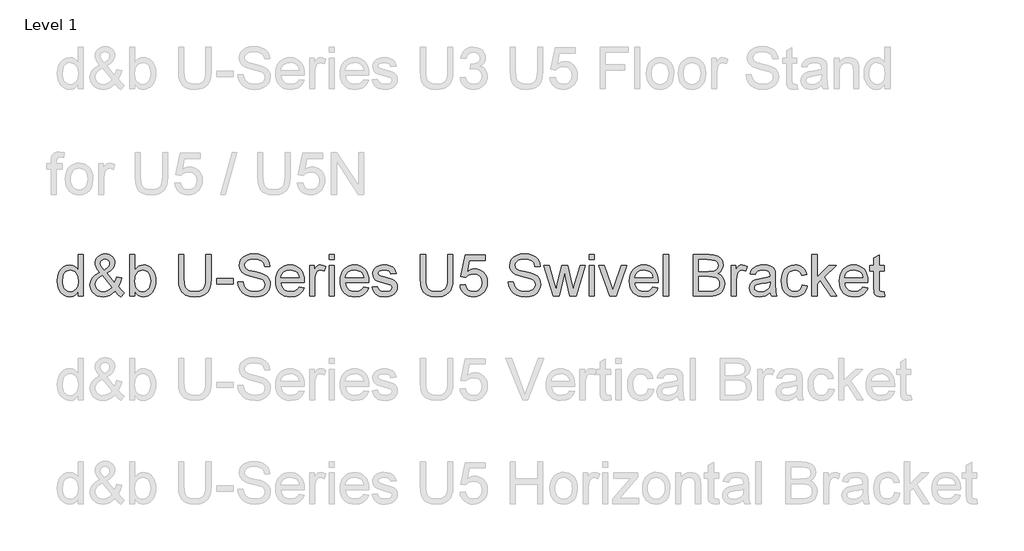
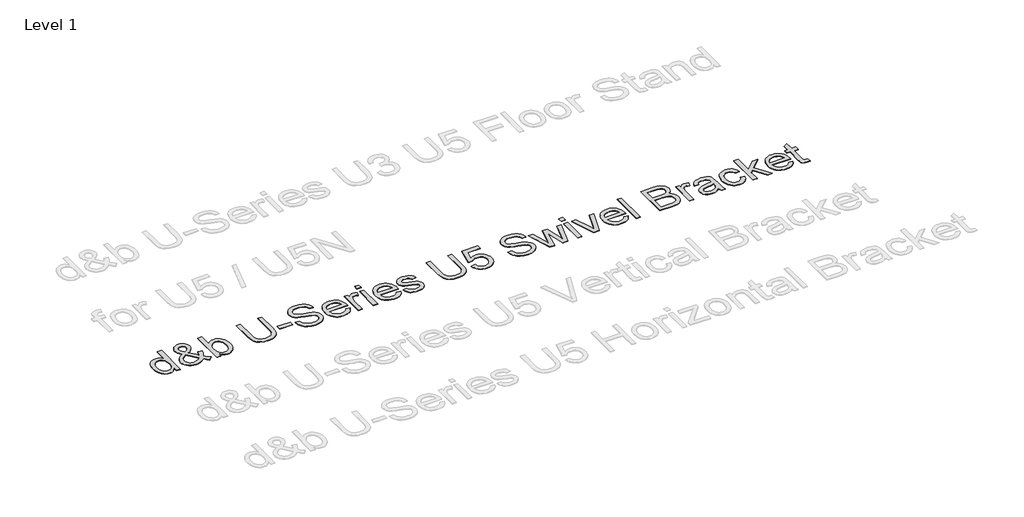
# One storey, part 9 of 29: 1 proxy.
"""IFC4 building model written with IfcOpenShell, lengths in millimetres."""

from ifc_helpers import new_model, si_unit, origin, origin_with_axes, place, context, project, spatial, polyline, outline, extrude, element, save

model = new_model("IFC4")

# Units and contexts
model_context = context("Model", 3, world=origin())
ifc_project = project(units=[si_unit("LENGTHUNIT", "METRE", prefix="MILLI")], contexts=[model_context])

# Site, building, storey
site = spatial("IfcSite", under=ifc_project)
building = spatial("IfcBuilding", under=site)
storey = spatial("IfcBuildingStorey", under=building, Name="Level 1", Elevation=0.0)

# Proxy
placement = place(None, origin())
element("IfcBuildingElementProxy", 1, Name="400mm Arial", ObjectType="400mm Arial", at=placement, inside=storey, context=model_context, shape_type="SweptSolid", body=[
    extrude(outline(polyline([(-20788.4119982, -3835.6363385), (-20788.4119982, -3788.2531375), (-20803.4399777, -3811.7301402), (-20821.6440051, -3828.4994278), (-20843.0240804, -3838.5610004), (-20867.5802036, -3841.9148579), (-20900.051921, -3837.0588156), (-20929.7767862, -3822.4906885), (-20954.9399147, -3799.2282837), (-20973.7264219, -3768.2894079), (-20985.4250694, -3730.9248599), (-20989.3246185, -3688.3854386), (-20985.7316377, -3646.3733147), (-20974.9526952, -3608.4324183), (-20957.0000539, -3576.7209903), (-20931.8859763, -3553.3972718), (-20901.5111863, -3539.049874), (-20867.7764073, -3534.2674081), (-20843.20189, -3537.6887106), (-20821.4723268, -3547.9526183), (-20803.0537016, -3563.6857049), (-20788.4119982, -3583.5145445), (-20788.4119982, -3433.8110979), (-20738.1838431, -3433.8110979), (-20738.1838431, -3835.6363385), (-20788.4119982, -3835.6363385)]), holes=[polyline([(-20939.0964634, -3688.1892348), (-20937.6801177, -3712.5460886), (-20933.4310807, -3733.6226612), (-20926.3493523, -3751.4189528), (-20916.4349325, -3765.9349632), (-20891.7377879, -3785.2487679), (-20877.8625053, -3790.0772191), (-20862.9694159, -3791.6867028), (-20848.0058157, -3790.1507955), (-20834.2133066, -3785.5430735), (-20810.1415614, -3767.1121855), (-20800.6348775, -3753.2031804), (-20793.844389, -3736.0506824), (-20788.4119982, -3692.0152076), (-20793.9424909, -3643.8717172), (-20800.8556067, -3625.336596), (-20810.5339688, -3610.4925575), (-20822.235682, -3599.1188724), (-20835.2188507, -3590.9948117), (-20849.4834751, -3586.1203753), (-20865.0295551, -3584.4955631), (-20880.2169501, -3586.0559959), (-20894.0922327, -3590.7372943), (-20906.6554028, -3598.5394583), (-20917.9064605, -3609.4624879), (-20927.1770868, -3623.7455063), (-20933.7989627, -3641.627637), (-20939.0964634, -3688.1892348)])]), origin_with_axes(), (0.0, 0.0, 1.0), 5.0),
    extrude(outline(polyline([(-20432.4003287, -3785.9967946), (-20457.9313392, -3810.4609473), (-20485.6696416, -3827.9353421), (-20515.664287, -3838.4199789), (-20547.9643262, -3841.9148579), (-20577.2722584, -3839.3274212), (-20603.3918801, -3831.5651111), (-20626.3231911, -3818.6279276), (-20646.0661915, -3800.5158707), (-20658.8991418, -3783.1457092), (-20668.0655348, -3764.7822662), (-20673.5653707, -3745.4255419), (-20675.3986493, -3725.0755362), (-20669.5002746, -3689.881492), (-20651.8051507, -3658.2681659), (-20622.3868538, -3630.2600833), (-20581.3189604, -3605.8817698), (-20603.2324646, -3577.5303307), (-20616.3903773, -3555.0650035), (-20622.975465, -3535.8860888), (-20625.1704942, -3517.3938872), (-20623.4414488, -3499.8397847), (-20618.2543127, -3483.4751673), (-20609.6090858, -3468.300035), (-20597.5057682, -3454.3143878), (-20582.784357, -3442.5973462), (-20566.2848495, -3434.2280308), (-20548.0072457, -3429.2064416), (-20527.9515456, -3427.5325785), (-20508.8032878, -3429.1328652), (-20491.4821772, -3433.9337252), (-20475.9882138, -3441.9351586), (-20462.3213977, -3453.1371654), (-20451.1623105, -3466.5832523), (-20443.1915339, -3481.3169262), (-20438.409068, -3497.3381871), (-20436.8149127, -3514.647035), (-20441.5360649, -3542.6305921), (-20455.6995218, -3568.5049591), (-20479.3052831, -3592.270136), (-20512.353349, -3613.9261227), (-20439.6598668, -3704.4741445), (-20427.2745063, -3678.5997775), (-20417.9793545, -3648.8503868), (-20367.7511994, -3659.7396939), (-20383.2022432, -3706.2645035), (-20403.2640747, -3742.4395664), (-20374.7164319, -3775.7451497), (-20342.6371219, -3803.2627229), (-20380.3082382, -3841.9148579), (-20405.9373505, -3818.4685121), (-20432.4003287, -3785.9967946)]), holes=[polyline([(-20537.7617322, -3582.2392202), (-20511.4949577, -3565.5741659), (-20496.4608468, -3551.091878), (-20489.3975125, -3537.0019976), (-20487.0430678, -3521.5141656), (-20490.1455392, -3503.9661944), (-20499.4529537, -3489.9744158), (-20513.4202068, -3480.8141542), (-20530.5021941, -3477.7607336), (-20547.9520634, -3480.7896287), (-20562.2381476, -3489.876314), (-20571.7662912, -3503.3285323), (-20574.9423391, -3519.4540264), (-20570.6258571, -3537.8481261), (-20557.578309, -3558.3023651), (-20537.7617322, -3582.2392202)]), polyline([(-20466.0492686, -3749.7972063), (-20555.7143735, -3637.8629779), (-20589.9641873, -3659.7151684), (-20610.8966728, -3679.9486782), (-20621.6020389, -3699.2747456), (-20625.1704942, -3718.4046094), (-20620.2899264, -3742.0962099), (-20605.648223, -3766.6707271), (-20594.8692805, -3777.6152165), (-20582.0547244, -3785.4327089), (-20567.2045545, -3790.1232043), (-20550.3187709, -3791.6867028), (-20527.5959264, -3788.7681723), (-20504.1618433, -3780.0125808), (-20482.7388484, -3766.6216762), (-20466.0492686, -3749.7972063)])]), origin_with_axes(), (0.0, 0.0, 1.0), 5.0),
    extrude(outline(polyline([(-20242.1808118, -3835.6363385), (-20292.4089668, -3835.6363385), (-20292.4089668, -3433.8110979), (-20242.1808118, -3433.8110979), (-20242.1808118, -3582.8278314), (-20225.6629102, -3561.5826462), (-20207.011293, -3546.4075139), (-20186.2259603, -3537.3024345), (-20163.306912, -3534.2674081), (-20137.432545, -3537.0019976), (-20112.9806551, -3545.2057661), (-20091.3491937, -3558.3636787), (-20073.9361126, -3575.9607008), (-20060.2876906, -3597.8251541), (-20049.9502065, -3623.7853602), (-20043.4386952, -3652.7621987), (-20041.2681915, -3683.676549), (-20043.5153373, -3719.3488398), (-20050.2567749, -3750.729174), (-20061.4925041, -3777.8175516), (-20077.2225251, -3800.6139726), (-20096.1040685, -3818.6831099), (-20116.7943651, -3831.5896366), (-20139.2934148, -3839.3335526), (-20163.6012176, -3841.9148579), (-20187.274424, -3838.5855258), (-20208.2620918, -3828.5975297), (-20226.5642211, -3811.9508694), (-20242.1808118, -3788.645545), (-20242.1808118, -3835.6363385)]), holes=[polyline([(-20242.1808118, -3686.0309938), (-20238.7472465, -3727.9204903), (-20228.4465506, -3756.2719294), (-20216.2757879, -3771.7658928), (-20202.1307252, -3782.8330095), (-20186.0113625, -3789.4732795), (-20167.9176997, -3791.6867028), (-20152.8958515, -3790.0557593), (-20138.9285984, -3785.1629288), (-20126.0159404, -3777.0082112), (-20114.1578774, -3765.5916066), (-20104.2434577, -3750.9437719), (-20097.1617293, -3733.0953637), (-20092.9126922, -3712.0463822), (-20091.4963465, -3687.7968274), (-20096.9287373, -3641.8361035), (-20103.7192258, -3624.0428776), (-20113.2259097, -3609.7077425), (-20124.6578427, -3598.677414), (-20137.2240785, -3590.798608), (-20150.9246172, -3586.0713243), (-20165.7594586, -3584.4955631), (-20180.7813068, -3586.1265066), (-20194.7485599, -3591.0193372), (-20207.6612179, -3599.1740547), (-20219.5192809, -3610.5906593), (-20229.4337006, -3625.0913413), (-20236.515429, -3642.498291), (-20240.7644661, -3662.8115085), (-20242.1808118, -3686.0309938)])]), origin_with_axes(), (0.0, 0.0, 1.0), 5.0),
    extrude(outline(polyline([(-19557.8221989, -3433.8110979), (-19507.5940438, -3433.8110979), (-19507.5940438, -3665.6258058), (-19511.0030836, -3719.9129256), (-19521.2302031, -3761.7165829), (-19529.4155775, -3778.6698116), (-19540.3355414, -3793.9675712), (-19570.3792376, -3819.5966835), (-19589.5213641, -3829.3608848), (-19611.4348683, -3836.3353143), (-19663.5760097, -3841.9148579), (-19714.576717, -3837.0588156), (-19755.3503048, -3822.4906885), (-19771.9049946, -3811.6902863), (-19785.9090359, -3798.7132489), (-19797.3624287, -3783.5595764), (-19806.2651729, -3766.2292688), (-19817.706303, -3722.6597778), (-19821.520013, -3665.6258058), (-19821.520013, -3433.8110979), (-19771.2918579, -3433.8110979), (-19771.2918579, -3663.8599722), (-19768.8147858, -3708.999093), (-19761.3835695, -3740.4284782), (-19747.9190885, -3762.1948295), (-19727.3422222, -3778.3448491), (-19700.5113621, -3788.3512394), (-19668.2848993, -3791.6867028), (-19640.6017791, -3790.0373652), (-19617.1983529, -3785.0893524), (-19598.0746205, -3776.8426643), (-19583.230582, -3765.297301), (-19572.1144144, -3749.0614423), (-19564.1742947, -3726.7432679), (-19559.4102228, -3698.3427779), (-19557.8221989, -3663.8599722), (-19557.8221989, -3433.8110979)])), origin_with_axes(), (0.0, 0.0, 1.0), 5.0),
    extrude(outline(polyline([(-19451.0873693, -3716.3444702), (-19451.0873693, -3666.1163151), (-19294.1243847, -3666.1163151), (-19294.1243847, -3716.3444702), (-19451.0873693, -3716.3444702)])), origin_with_axes(), (0.0, 0.0, 1.0), 5.0),
    extrude(outline(polyline([(-19250.174749, -3697.5089121), (-19199.946594, -3697.5089121), (-19194.1831094, -3725.3821046), (-19183.7597862, -3747.7861181), (-19167.499402, -3765.5670812), (-19144.2247344, -3779.5711224), (-19115.7751935, -3788.6578077), (-19083.9901891, -3791.6867028), (-19056.006632, -3789.3935717), (-19031.5056911, -3782.5141784), (-19011.6523261, -3771.6248713), (-18997.6114966, -3757.301999), (-18989.2605753, -3740.8576738), (-18986.4769349, -3723.6040082), (-18988.5615995, -3706.7918011), (-18994.8155934, -3692.2604623), (-19007.519785, -3679.862839), (-19028.9550426, -3669.4517786), (-19102.0899832, -3650.2728639), (-19150.0985836, -3637.580935), (-19180.8167302, -3625.5021429), (-19205.8204431, -3608.6040966), (-19223.5400926, -3588.1253322), (-19234.0983058, -3564.5073081), (-19237.6177103, -3538.1914827), (-19233.26444, -3508.7731858), (-19220.2046292, -3481.3414517), (-19198.7816343, -3458.0913096), (-19169.338812, -3441.2177887), (-19133.997615, -3430.9538811), (-19094.8794961, -3427.5325785), (-19052.4994903, -3431.1132966), (-19015.4169852, -3441.8554509), (-18984.956356, -3459.5383121), (-18962.4419779, -3483.9411511), (-18948.1926819, -3513.543389), (-18942.5272992, -3546.8244468), (-18992.7554543, -3546.8244468), (-19001.9770296, -3516.854327), (-19010.3402136, -3504.996264), (-19021.2049952, -3495.2228656), (-19051.2486915, -3482.1262666), (-19092.9174588, -3477.7607336), (-19135.5672448, -3482.0772157), (-19151.8705486, -3487.4728183), (-19164.8261262, -3495.0266619), (-19181.7486979, -3514.0829493), (-19187.3895552, -3536.7199547), (-19183.3919042, -3556.0214967), (-19171.3989511, -3571.5461169), (-19143.047512, -3585.4275309), (-19089.3857917, -3599.6032504), (-19034.0072887, -3613.0677314), (-19000.5055016, -3624.8154298), (-18971.8720197, -3643.0378513), (-18951.8960273, -3665.5277039), (-18940.1605917, -3692.0397331), (-18936.2487798, -3722.328684), (-18940.7492029, -3753.2920853), (-18954.2504721, -3782.4160765), (-18976.2007645, -3807.4811031), (-19006.048257, -3826.2676104), (-19041.941277, -3838.003046), (-19082.0281518, -3841.9148579), (-19131.2385, -3837.6964777), (-19171.7423077, -3825.041337), (-19204.0055586, -3803.9003851), (-19228.4942368, -3774.2245708), (-19244.2150607, -3738.0740334), (-19250.174749, -3697.5089121)])), origin_with_axes(), (0.0, 0.0, 1.0), 5.0),
    extrude(outline(polyline([(-18660.5825381, -3747.7370671), (-18611.3354017, -3754.0155865), (-18618.8861796, -3773.7401928), (-18629.0795766, -3791.1226171), (-18641.9155925, -3806.1628593), (-18657.3942275, -3818.8609195), (-18675.3560659, -3828.9470176), (-18695.6416922, -3836.1513733), (-18743.1843087, -3841.9148579), (-18774.3500451, -3839.4285887), (-18802.1190044, -3831.9697813), (-18826.4911866, -3819.5384355), (-18847.4665916, -3802.1345515), (-18864.3339811, -3780.2425071), (-18876.3821165, -3754.3466803), (-18883.6109977, -3724.4470712), (-18886.0206247, -3690.5436796), (-18883.5864722, -3655.4906568), (-18876.2840146, -3624.5947006), (-18864.1132519, -3597.8558109), (-18847.0741842, -3575.2739878), (-18826.1539614, -3557.3336092), (-18802.3397336, -3544.519053), (-18775.6315007, -3536.8303193), (-18746.0292628, -3534.2674081), (-18717.3804525, -3536.8241879), (-18691.472363, -3544.4945275), (-18668.3049943, -3557.2784269), (-18647.8783465, -3575.1758859), (-18631.2040951, -3597.7086581), (-18619.2939155, -3624.3984969), (-18612.1478077, -3655.2454022), (-18609.7657718, -3690.249374), (-18610.0600774, -3703.7874314), (-18835.7924697, -3703.7874314), (-18832.8831362, -3723.8308688), (-18827.0981918, -3741.3849713), (-18818.4376365, -3756.449739), (-18806.9014703, -3769.0251719), (-18793.1273553, -3778.9395917), (-18777.7529536, -3786.0213201), (-18742.2032901, -3791.6867028), (-18715.4705318, -3789.0624779), (-18692.9561537, -3781.1898032), (-18674.6601558, -3767.5781694), (-18660.5825381, -3747.7370671)]), holes=[polyline([(-18835.7924697, -3653.5592764), (-18659.9939269, -3653.5592764), (-18666.7874811, -3627.0227218), (-18680.1048093, -3608.0400108), (-18693.8022823, -3597.739315), (-18709.3882161, -3590.3816751), (-18726.8626109, -3585.9670911), (-18746.2254666, -3584.4955631), (-18780.0828729, -3589.1921899), (-18808.0786927, -3603.2820704), (-18827.5396502, -3625.2446255), (-18835.7924697, -3653.5592764)])]), origin_with_axes(), (0.0, 0.0, 1.0), 5.0),
    extrude(outline(polyline([(-18559.5376168, -3835.6363385), (-18559.5376168, -3540.5459274), (-18515.5879811, -3540.5459274), (-18515.5879811, -3584.2012575), (-18499.3521223, -3558.8909763), (-18484.3915879, -3543.9794927), (-18469.3820025, -3536.6954292), (-18452.998991, -3534.2674081), (-18427.9830153, -3538.1424317), (-18402.5746321, -3549.7675028), (-18419.3500511, -3594.796259), (-18437.0083869, -3587.0707371), (-18454.6667227, -3584.4955631), (-18469.6640453, -3586.9726352), (-18483.0672127, -3594.4038515), (-18493.8952061, -3606.2251263), (-18501.1670069, -3621.8723738), (-18507.273848, -3649.9295073), (-18509.3094617, -3680.5372893), (-18509.3094617, -3835.6363385), (-18559.5376168, -3835.6363385)])), origin_with_axes(), (0.0, 0.0, 1.0), 5.0),
    extrude(outline(polyline([(-18371.1820352, -3484.039253), (-18371.1820352, -3433.8110979), (-18320.9538802, -3433.8110979), (-18320.9538802, -3484.039253), (-18371.1820352, -3484.039253)])), origin_with_axes(), (0.0, 0.0, 1.0), 5.0),
    extrude(outline(polyline([(-18371.1820352, -3835.6363385), (-18371.1820352, -3540.5459274), (-18320.9538802, -3540.5459274), (-18320.9538802, -3835.6363385), (-18371.1820352, -3835.6363385)])), origin_with_axes(), (0.0, 0.0, 1.0), 5.0),
    extrude(outline(polyline([(-18039.009119, -3747.7370671), (-17989.7619826, -3754.0155865), (-17997.3127606, -3773.7401928), (-18007.5061575, -3791.1226171), (-18020.3421735, -3806.1628593), (-18035.8208084, -3818.8609195), (-18053.7826468, -3828.9470176), (-18074.0682732, -3836.1513733), (-18121.6108897, -3841.9148579), (-18152.7766261, -3839.4285887), (-18180.5455853, -3831.9697813), (-18204.9177675, -3819.5384355), (-18225.8931726, -3802.1345515), (-18242.7605621, -3780.2425071), (-18254.8086974, -3754.3466803), (-18262.0375786, -3724.4470712), (-18264.4472057, -3690.5436796), (-18262.0130532, -3655.4906568), (-18254.7105956, -3624.5947006), (-18242.5398329, -3597.8558109), (-18225.5007651, -3575.2739878), (-18204.5805423, -3557.3336092), (-18180.7663145, -3544.519053), (-18154.0580817, -3536.8303193), (-18124.4558438, -3534.2674081), (-18095.8070334, -3536.8241879), (-18069.8989439, -3544.4945275), (-18046.7315753, -3557.2784269), (-18026.3049275, -3575.1758859), (-18009.630676, -3597.7086581), (-17997.7204965, -3624.3984969), (-17990.5743887, -3655.2454022), (-17988.1923528, -3690.249374), (-17988.4866584, -3703.7874314), (-18214.2190506, -3703.7874314), (-18211.3097172, -3723.8308688), (-18205.5247728, -3741.3849713), (-18196.8642175, -3756.449739), (-18185.3280513, -3769.0251719), (-18171.5539362, -3778.9395917), (-18156.1795345, -3786.0213201), (-18120.629871, -3791.6867028), (-18093.8971127, -3789.0624779), (-18071.3827346, -3781.1898032), (-18053.0867367, -3767.5781694), (-18039.009119, -3747.7370671)]), holes=[polyline([(-18214.2190506, -3653.5592764), (-18038.4205079, -3653.5592764), (-18045.214062, -3627.0227218), (-18058.5313903, -3608.0400108), (-18072.2288632, -3597.739315), (-18087.8147971, -3590.3816751), (-18105.2891918, -3585.9670911), (-18124.6520475, -3584.4955631), (-18158.5094538, -3589.1921899), (-18186.5052736, -3603.2820704), (-18205.9662312, -3625.2446255), (-18214.2190506, -3653.5592764)])]), origin_with_axes(), (0.0, 0.0, 1.0), 5.0),
    extrude(outline(polyline([(-17956.7997559, -3747.7370671), (-17906.5716008, -3741.4585477), (-17898.6498752, -3762.9428563), (-17883.3214587, -3778.7372566), (-17860.4882495, -3788.4493413), (-17830.0521458, -3791.6867028), (-17799.983924, -3788.7191214), (-17778.8429721, -3779.8163771), (-17766.3349842, -3766.9159818), (-17762.1656549, -3751.9554473), (-17766.3595097, -3739.1531539), (-17778.9410739, -3729.3920183), (-17830.640757, -3715.069146), (-17906.2772952, -3690.4946287), (-17925.4194217, -3678.1460564), (-17939.2885729, -3661.7998331), (-17947.7130706, -3642.498291), (-17950.5212365, -3621.2837627), (-17948.2648936, -3601.8228051), (-17941.4958649, -3583.857901), (-17930.827287, -3568.1002889), (-17916.8722966, -3555.2612073), (-17884.9401395, -3540.3987746), (-17864.0567049, -3535.8002497), (-17841.7262678, -3534.2674081), (-17809.0338211, -3536.7322174), (-17780.6088056, -3544.1266455), (-17757.751071, -3555.7271911), (-17741.7604669, -3570.8103529), (-17731.1654655, -3590.4920397), (-17724.4945386, -3615.8881601), (-17774.7226937, -3622.1666794), (-17781.0625268, -3606.3600164), (-17793.6073028, -3594.4529025), (-17812.4796492, -3586.984898), (-17837.8021932, -3584.4955631), (-17866.6441416, -3586.8745334), (-17885.8721072, -3594.0114441), (-17896.6878378, -3604.3121399), (-17900.2930814, -3616.1824657), (-17894.3088676, -3630.7996436), (-17875.5714113, -3641.8851544), (-17832.3084887, -3652.5782577), (-17758.5849369, -3676.2208073), (-17739.1117166, -3687.5270473), (-17724.3473858, -3703.0026165), (-17715.0399714, -3722.696566), (-17711.9374999, -3746.6579466), (-17715.5795316, -3771.4286676), (-17726.5056269, -3794.7278606), (-17744.2988527, -3814.7283785), (-17768.5422762, -3829.6030738), (-17797.825683, -3838.8369119), (-17830.7388588, -3841.9148579), (-17857.7720541, -3840.4310672), (-17881.3839468, -3835.979695), (-17901.574537, -3828.5607415), (-17918.3438246, -3818.1742065), (-17932.0412976, -3804.869141), (-17943.0164438, -3788.6945959), (-17951.2692632, -3769.6505713), (-17956.7997559, -3747.7370671)])), origin_with_axes(), (0.0, 0.0, 1.0), 5.0),
    extrude(outline(polyline([(-17228.4915073, -3433.8110979), (-17178.2633522, -3433.8110979), (-17178.2633522, -3665.6258058), (-17181.672392, -3719.9129256), (-17191.8995115, -3761.7165829), (-17200.0848859, -3778.6698116), (-17211.0048498, -3793.9675712), (-17241.048546, -3819.5966835), (-17260.1906725, -3829.3608848), (-17282.1041767, -3836.3353143), (-17334.2453182, -3841.9148579), (-17385.2460254, -3837.0588156), (-17426.0196132, -3822.4906885), (-17442.574303, -3811.6902863), (-17456.5783443, -3798.7132489), (-17468.0317371, -3783.5595764), (-17476.9344814, -3766.2292688), (-17488.3756114, -3722.6597778), (-17492.1893214, -3665.6258058), (-17492.1893214, -3433.8110979), (-17441.9611663, -3433.8110979), (-17441.9611663, -3663.8599722), (-17439.4840942, -3708.999093), (-17432.0528779, -3740.4284782), (-17418.5883969, -3762.1948295), (-17398.0115307, -3778.3448491), (-17371.1806705, -3788.3512394), (-17338.9542077, -3791.6867028), (-17311.2710876, -3790.0373652), (-17287.8676613, -3785.0893524), (-17268.7439289, -3776.8426643), (-17253.8998904, -3765.297301), (-17242.7837228, -3749.0614423), (-17234.8436031, -3726.7432679), (-17230.0795312, -3698.3427779), (-17228.4915073, -3663.8599722), (-17228.4915073, -3433.8110979)])), origin_with_axes(), (0.0, 0.0, 1.0), 5.0),
    extrude(outline(polyline([(-17109.199639, -3728.901509), (-17058.9714839, -3722.6229896), (-17049.7499086, -3752.7770505), (-17033.6612026, -3774.3717236), (-17010.7789425, -3787.357958), (-16981.1767046, -3791.6867028), (-16962.0468409, -3790.1814523), (-16945.1733201, -3785.6657008), (-16930.5561421, -3778.1394483), (-16918.1953071, -3767.6026949), (-16908.3667264, -3754.5766066), (-16901.3463117, -3739.5823496), (-16895.7299799, -3703.6893296), (-16900.9906924, -3669.8932369), (-16907.5665831, -3655.9750348), (-16916.77283, -3644.0433954), (-16928.6400901, -3634.4723322), (-16943.19902, -3627.6358584), (-16980.3918897, -3622.1666794), (-17004.7579405, -3624.3494459), (-17024.4886782, -3630.8977455), (-17040.2462903, -3640.9286612), (-17052.6929645, -3653.5592764), (-17102.9211196, -3647.280757), (-17058.9714839, -3440.0896173), (-16864.337383, -3440.0896173), (-16864.337383, -3490.3177724), (-17018.3573116, -3490.3177724), (-17039.939722, -3600.9766765), (-17022.2139412, -3588.272485), (-17004.0589647, -3579.1980624), (-16985.4747926, -3573.7534089), (-16966.4614248, -3571.9385244), (-16941.9972722, -3574.1887359), (-16919.5196823, -3580.9393705), (-16899.0286551, -3592.1904282), (-16880.5241908, -3607.941909), (-16865.2019057, -3627.2311882), (-16854.2574163, -3649.0956415), (-16847.6907227, -3673.5352687), (-16845.5018248, -3700.5500699), (-16847.4699935, -3726.5715897), (-16853.3744995, -3750.778225), (-16863.2153429, -3773.1699757), (-16876.9925236, -3793.746842), (-16897.8636955, -3814.8203489), (-16922.2174836, -3829.8728539), (-16950.0538879, -3838.9043569), (-16981.3729084, -3841.9148579), (-17007.2932606, -3839.9804117), (-17030.7058839, -3834.1770733), (-17051.6107783, -3824.5048425), (-17070.0079438, -3810.9637194), (-17085.3149004, -3794.2281543), (-17096.9491685, -3774.9725975), (-17104.910748, -3753.1970491), (-17109.199639, -3728.901509)])), origin_with_axes(), (0.0, 0.0, 1.0), 5.0),
    extrude(outline(polyline([(-16644.5892045, -3697.5089121), (-16594.3610495, -3697.5089121), (-16588.5975649, -3725.3821046), (-16578.1742417, -3747.7861181), (-16561.9138575, -3765.5670812), (-16538.6391899, -3779.5711224), (-16510.189649, -3788.6578077), (-16478.4046446, -3791.6867028), (-16450.4210875, -3789.3935717), (-16425.9201466, -3782.5141784), (-16406.0667816, -3771.6248713), (-16392.0259521, -3757.301999), (-16383.6750308, -3740.8576738), (-16380.8913904, -3723.6040082), (-16382.976055, -3706.7918011), (-16389.2300489, -3692.2604623), (-16401.9342405, -3679.862839), (-16423.3694981, -3669.4517786), (-16496.5044387, -3650.2728639), (-16544.5130391, -3637.580935), (-16575.2311857, -3625.5021429), (-16600.2348986, -3608.6040966), (-16617.9545481, -3588.1253322), (-16628.5127613, -3564.5073081), (-16632.0321658, -3538.1914827), (-16627.6788955, -3508.7731858), (-16614.6190847, -3481.3414517), (-16593.1960898, -3458.0913096), (-16563.7532675, -3441.2177887), (-16528.4120705, -3430.9538811), (-16489.2939516, -3427.5325785), (-16446.9139458, -3431.1132966), (-16409.8314407, -3441.8554509), (-16379.3708115, -3459.5383121), (-16356.8564334, -3483.9411511), (-16342.6071374, -3513.543389), (-16336.9417547, -3546.8244468), (-16387.1699098, -3546.8244468), (-16396.3914851, -3516.854327), (-16404.7546691, -3504.996264), (-16415.6194507, -3495.2228656), (-16445.663147, -3482.1262666), (-16487.3319143, -3477.7607336), (-16529.9817003, -3482.0772157), (-16546.2850041, -3487.4728183), (-16559.2405816, -3495.0266619), (-16576.1631534, -3514.0829493), (-16581.8040107, -3536.7199547), (-16577.8063597, -3556.0214967), (-16565.8134066, -3571.5461169), (-16537.4619675, -3585.4275309), (-16483.8002472, -3599.6032504), (-16428.4217442, -3613.0677314), (-16394.9199571, -3624.8154298), (-16366.2864752, -3643.0378513), (-16346.3104828, -3665.5277039), (-16334.5750472, -3692.0397331), (-16330.6632353, -3722.328684), (-16335.1636584, -3753.2920853), (-16348.6649276, -3782.4160765), (-16370.61522, -3807.4811031), (-16400.4627125, -3826.2676104), (-16436.3557325, -3838.003046), (-16476.4426073, -3841.9148579), (-16525.6529555, -3837.6964777), (-16566.1567632, -3825.041337), (-16598.4200141, -3803.9003851), (-16622.9086923, -3774.2245708), (-16638.6295162, -3738.0740334), (-16644.5892045, -3697.5089121)])), origin_with_axes(), (0.0, 0.0, 1.0), 5.0),
    extrude(outline(polyline([(-16212.2542838, -3835.6363385), (-16302.4098981, -3540.5459274), (-16250.3178076, -3540.5459274), (-16199.3048376, -3712.7147012), (-16184.0990484, -3774.2245708), (-16171.6401115, -3714.9710441), (-16131.1240411, -3540.5459274), (-16071.478107, -3540.5459274), (-16030.9620366, -3714.4805348), (-16019.8765258, -3768.1422551), (-16003.9840236, -3711.5374788), (-15952.9710536, -3540.5459274), (-15900.5846575, -3540.5459274), (-15991.0345774, -3835.6363385), (-16051.6615302, -3835.6363385), (-16090.3136651, -3662.584648), (-16101.4972778, -3608.628622), (-16151.2349235, -3835.6363385), (-16212.2542838, -3835.6363385)])), origin_with_axes(), (0.0, 0.0, 1.0), 5.0),
    extrude(outline(polyline([(-15866.0528009, -3835.6363385), (-15866.0528009, -3540.5459274), (-15815.8246458, -3540.5459274), (-15815.8246458, -3835.6363385), (-15866.0528009, -3835.6363385)])), origin_with_axes(), (0.0, 0.0, 1.0), 5.0),
    extrude(outline(polyline([(-15866.0528009, -3484.039253), (-15866.0528009, -3433.8110979), (-15815.8246458, -3433.8110979), (-15815.8246458, -3484.039253), (-15866.0528009, -3484.039253)])), origin_with_axes(), (0.0, 0.0, 1.0), 5.0),
    extrude(outline(polyline([(-15667.8870328, -3835.6363385), (-15771.8750101, -3540.5459274), (-15718.8019009, -3540.5459274), (-15655.8205034, -3717.3254889), (-15636.8868433, -3776.7752193), (-15618.3455908, -3720.6609523), (-15555.0698876, -3540.5459274), (-15501.8986766, -3540.5459274), (-15604.4151259, -3835.6363385), (-15667.8870328, -3835.6363385)])), origin_with_axes(), (0.0, 0.0, 1.0), 5.0),
    extrude(outline(polyline([(-15251.3465124, -3747.7370671), (-15202.099376, -3754.0155865), (-15209.6501539, -3773.7401928), (-15219.8435509, -3791.1226171), (-15232.6795668, -3806.1628593), (-15248.1582018, -3818.8609195), (-15266.1200402, -3828.9470176), (-15286.4056665, -3836.1513733), (-15333.948283, -3841.9148579), (-15365.1140194, -3839.4285887), (-15392.8829787, -3831.9697813), (-15417.2551609, -3819.5384355), (-15438.2305659, -3802.1345515), (-15455.0979554, -3780.2425071), (-15467.1460908, -3754.3466803), (-15474.374972, -3724.4470712), (-15476.784599, -3690.5436796), (-15474.3504465, -3655.4906568), (-15467.0479889, -3624.5947006), (-15454.8772262, -3597.8558109), (-15437.8381585, -3575.2739878), (-15416.9179357, -3557.3336092), (-15393.1037079, -3544.519053), (-15366.395475, -3536.8303193), (-15336.7932371, -3534.2674081), (-15308.1444268, -3536.8241879), (-15282.2363373, -3544.4945275), (-15259.0689686, -3557.2784269), (-15238.6423208, -3575.1758859), (-15221.9680694, -3597.7086581), (-15210.0578898, -3624.3984969), (-15202.911782, -3655.2454022), (-15200.5297461, -3690.249374), (-15200.8240517, -3703.7874314), (-15426.556444, -3703.7874314), (-15423.6471105, -3723.8308688), (-15417.8621661, -3741.3849713), (-15409.2016108, -3756.449739), (-15397.6654446, -3769.0251719), (-15383.8913296, -3778.9395917), (-15368.5169279, -3786.0213201), (-15332.9672644, -3791.6867028), (-15306.2345061, -3789.0624779), (-15283.720128, -3781.1898032), (-15265.4241301, -3767.5781694), (-15251.3465124, -3747.7370671)]), holes=[polyline([(-15426.556444, -3653.5592764), (-15250.7579012, -3653.5592764), (-15257.5514554, -3627.0227218), (-15270.8687836, -3608.0400108), (-15284.5662566, -3597.739315), (-15300.1521904, -3590.3816751), (-15317.6265852, -3585.9670911), (-15336.9894409, -3584.4955631), (-15370.8468472, -3589.1921899), (-15398.842667, -3603.2820704), (-15418.3036245, -3625.2446255), (-15426.556444, -3653.5592764)])]), origin_with_axes(), (0.0, 0.0, 1.0), 5.0),
    extrude(outline(polyline([(-15150.3015911, -3835.6363385), (-15150.3015911, -3433.8110979), (-15100.073436, -3433.8110979), (-15100.073436, -3835.6363385), (-15150.3015911, -3835.6363385)])), origin_with_axes(), (0.0, 0.0, 1.0), 5.0),
    extrude(outline(polyline([(-14861.4896994, -3835.6363385), (-14861.4896994, -3433.8110979), (-14708.1564838, -3433.8110979), (-14665.9849444, -3436.7664166), (-14633.0595058, -3445.6323727), (-14607.822801, -3460.6296954), (-14588.7174627, -3481.9791138), (-14576.6877214, -3507.0931914), (-14572.6778077, -3533.3844913), (-14576.0500593, -3557.5788638), (-14586.1668142, -3580.3262339), (-14603.1016487, -3600.2286498), (-14626.9281392, -3615.8881601), (-14598.4663356, -3630.7505927), (-14577.4357482, -3653.3630726), (-14564.4495137, -3682.2295465), (-14560.1207689, -3715.8539609), (-14563.0760876, -3743.8743062), (-14571.9420437, -3769.8590378), (-14585.1735328, -3791.9564829), (-14601.2254505, -3808.314969), (-14620.8826118, -3820.1607692), (-14644.9298315, -3828.720157), (-14674.1519247, -3833.9072931), (-14709.3337062, -3835.6363385), (-14861.4896994, -3835.6363385)]), holes=[polyline([(-14811.2615443, -3597.0526019), (-14719.5363002, -3597.0526019), (-14665.9726817, -3592.7361198), (-14647.2229626, -3585.2926408), (-14633.7462189, -3574.1458163), (-14625.6160268, -3559.4673247), (-14622.9059628, -3541.4288442), (-14625.4320858, -3523.9176613), (-14633.0104549, -3508.6628212), (-14645.2977135, -3496.7557073), (-14661.9505052, -3489.2877028), (-14687.5060411, -3485.3513654), (-14726.5015326, -3484.039253), (-14811.2615443, -3484.039253), (-14811.2615443, -3597.0526019)]), polyline([(-14811.2615443, -3785.4081834), (-14708.2545856, -3785.4081834), (-14670.9758768, -3783.4461461), (-14639.4361271, -3772.5077881), (-14627.860107, -3763.0777463), (-14618.5404298, -3750.1896138), (-14612.3968004, -3734.4197389), (-14610.348924, -3716.3444702), (-14612.7524197, -3695.350671), (-14619.9629068, -3677.2999278), (-14632.5567338, -3663.1855219), (-14651.1102491, -3654.0007348), (-14677.3892863, -3648.9607514), (-14713.1596789, -3647.280757), (-14811.2615443, -3647.280757), (-14811.2615443, -3785.4081834)])]), origin_with_axes(), (0.0, 0.0, 1.0), 5.0),
    extrude(outline(polyline([(-14497.3355751, -3835.6363385), (-14497.3355751, -3540.5459274), (-14453.3859394, -3540.5459274), (-14453.3859394, -3584.2012575), (-14437.1500807, -3558.8909763), (-14422.1895462, -3543.9794927), (-14407.1799608, -3536.6954292), (-14390.7969493, -3534.2674081), (-14365.7809736, -3538.1424317), (-14340.3725905, -3549.7675028), (-14357.1480095, -3594.796259), (-14374.8063452, -3587.0707371), (-14392.464681, -3584.4955631), (-14407.4620037, -3586.9726352), (-14420.865171, -3594.4038515), (-14431.6931644, -3606.2251263), (-14438.9649652, -3621.8723738), (-14445.0718063, -3649.9295073), (-14447.10742, -3680.5372893), (-14447.10742, -3835.6363385), (-14497.3355751, -3835.6363385)])), origin_with_axes(), (0.0, 0.0, 1.0), 5.0),
    extrude(outline(polyline([(-14120.624412, -3797.9652222), (-14144.6225808, -3818.5420885), (-14169.3319882, -3832.0065695), (-14195.3167198, -3839.4377858), (-14223.1408613, -3841.9148579), (-14245.505021, -3840.4249358), (-14265.116197, -3835.9551696), (-14281.9743894, -3828.5055592), (-14296.0795983, -3818.0761046), (-14307.2172257, -3805.3289935), (-14315.1726738, -3790.9264134), (-14319.9459427, -3774.8683643), (-14321.5370323, -3757.1548462), (-14319.1335366, -3736.3327253), (-14311.9230495, -3717.4235907), (-14300.8007505, -3701.2367829), (-14286.6618192, -3688.5816423), (-14270.0458157, -3679.0167104), (-14251.4923004, -3672.1005289), (-14208.0331741, -3664.5466853), (-14156.6768475, -3656.6004342), (-14120.9187176, -3647.280757), (-14120.624412, -3636.0971443), (-14124.0825028, -3613.6808681), (-14134.456775, -3599.0146392), (-14157.6578662, -3588.1253322), (-14189.9824308, -3584.4955631), (-14219.9034998, -3586.9113216), (-14240.7991971, -3594.1585969), (-14255.0484931, -3607.5617642), (-14265.0303579, -3628.4451988), (-14315.2585129, -3622.1666794), (-14306.5397096, -3594.6981571), (-14293.5289498, -3573.1157468), (-14275.0122227, -3556.6101079), (-14249.7755178, -3544.3719002), (-14218.9102184, -3536.7935311), (-14183.5077077, -3534.2674081), (-14149.5521996, -3536.4992255), (-14122.6355003, -3543.1946778), (-14102.3406769, -3553.2623817), (-14088.2507964, -3565.610954), (-14078.9065938, -3580.8780568), (-14072.8488036, -3599.7013523), (-14070.3962569, -3643.650988), (-14070.3962569, -3706.1418762), (-14067.8456084, -3793.4034855), (-14057.8392182, -3835.6363385), (-14108.0673733, -3835.6363385), (-14116.1117262, -3818.1742065), (-14120.624412, -3797.9652222)]), holes=[polyline([(-14120.624412, -3697.5089121), (-14154.3714537, -3705.8720961), (-14201.6565528, -3712.9109049), (-14244.8704245, -3721.0533597), (-14256.1153508, -3726.6206406), (-14264.4417467, -3734.2971116), (-14269.5920946, -3743.4941615), (-14271.3088772, -3753.6231791), (-14267.5687436, -3768.5591881), (-14256.3483428, -3780.7973958), (-14237.8929293, -3788.9643761), (-14212.447758, -3791.6867028), (-14185.469745, -3788.6823332), (-14161.6309917, -3779.6692243), (-14142.3049243, -3766.3886843), (-14128.8649687, -3750.5820212), (-14122.9052804, -3734.2971116), (-14120.9187176, -3711.7336825), (-14120.624412, -3697.5089121)])]), origin_with_axes(), (0.0, 0.0, 1.0), 5.0),
    extrude(outline(polyline([(-13812.9769622, -3728.901509), (-13762.7488071, -3735.1800284), (-13768.2118547, -3758.8808259), (-13776.7528484, -3779.8531653), (-13788.3717881, -3798.0970466), (-13803.0686738, -3813.6124697), (-13820.2242375, -3825.9947646), (-13839.2192112, -3834.8392609), (-13860.0535948, -3840.1459586), (-13882.7273885, -3841.9148579), (-13910.8979523, -3839.4469828), (-13936.1561169, -3832.0433577), (-13958.5018824, -3819.7039824), (-13977.9352488, -3802.4288571), (-13993.6652698, -3780.542944), (-14004.9009991, -3754.3712058), (-14011.6424366, -3723.9136423), (-14013.8895825, -3689.1702535), (-14010.051347, -3644.4725911), (-13998.5366406, -3605.734617), (-13979.1615221, -3574.4523847), (-13951.7420508, -3552.1219476), (-13918.9392395, -3538.7310429), (-13883.4141015, -3534.2674081), (-13861.1296497, -3535.8002497), (-13840.972782, -3540.3987746), (-13822.9434986, -3548.0629829), (-13807.0417993, -3558.7928744), (-13793.5374644, -3572.3431946), (-13782.700274, -3588.4686887), (-13774.530228, -3607.1693568), (-13769.0273265, -3628.4451988), (-13819.2554816, -3634.7237182), (-13828.3666923, -3612.810214), (-13842.5546746, -3597.1016528), (-13861.0346135, -3587.6470856), (-13883.0216941, -3584.4955631), (-13900.088353, -3586.0467989), (-13915.4811488, -3590.7005061), (-13929.2000815, -3598.4566849), (-13941.2451512, -3609.3153351), (-13951.052272, -3623.5278428), (-13958.0573584, -3641.3455941), (-13962.2604101, -3662.768589), (-13963.6614274, -3687.7968274), (-13958.1799857, -3734.87346), (-13951.3281835, -3752.810773), (-13941.7356605, -3767.0140837), (-13929.9297141, -3777.8083546), (-13916.437642, -3785.518548), (-13901.259444, -3790.1446641), (-13884.3951202, -3791.6867028), (-13858.3858631, -3787.8362046), (-13837.0609701, -3776.28471), (-13821.5486127, -3756.7379133), (-13812.9769622, -3728.901509)])), origin_with_axes(), (0.0, 0.0, 1.0), 5.0),
    extrude(outline(polyline([(-13718.7991714, -3835.6363385), (-13718.7991714, -3433.8110979), (-13668.5710163, -3433.8110979), (-13668.5710163, -3649.7333036), (-13555.9500749, -3540.5459274), (-13486.4939542, -3540.5459274), (-13600.5864236, -3651.1067297), (-13480.2154348, -3835.6363385), (-13538.8803503, -3835.6363385), (-13636.5898082, -3686.0309938), (-13668.5710163, -3717.1292851), (-13668.5710163, -3835.6363385), (-13718.7991714, -3835.6363385)])), origin_with_axes(), (0.0, 0.0, 1.0), 5.0),
    extrude(outline(polyline([(-13229.6632706, -3747.7370671), (-13180.4161342, -3754.0155865), (-13187.9669122, -3773.7401928), (-13198.1603091, -3791.1226171), (-13210.9963251, -3806.1628593), (-13226.47496, -3818.8609195), (-13244.4367984, -3828.9470176), (-13264.7224248, -3836.1513733), (-13312.2650413, -3841.9148579), (-13343.4307776, -3839.4285887), (-13371.1997369, -3831.9697813), (-13395.5719191, -3819.5384355), (-13416.5473242, -3802.1345515), (-13433.4147137, -3780.2425071), (-13445.462849, -3754.3466803), (-13452.6917302, -3724.4470712), (-13455.1013573, -3690.5436796), (-13452.6672047, -3655.4906568), (-13445.3647471, -3624.5947006), (-13433.1939845, -3597.8558109), (-13416.1549167, -3575.2739878), (-13395.2346939, -3557.3336092), (-13371.4204661, -3544.519053), (-13344.7122333, -3536.8303193), (-13315.1099954, -3534.2674081), (-13286.461185, -3536.8241879), (-13260.5530955, -3544.4945275), (-13237.3857269, -3557.2784269), (-13216.9590791, -3575.1758859), (-13200.2848276, -3597.7086581), (-13188.374648, -3624.3984969), (-13181.2285403, -3655.2454022), (-13178.8465044, -3690.249374), (-13179.14081, -3703.7874314), (-13404.8732022, -3703.7874314), (-13401.9638688, -3723.8308688), (-13396.1789244, -3741.3849713), (-13387.5183691, -3756.449739), (-13375.9822029, -3769.0251719), (-13362.2080878, -3778.9395917), (-13346.8336861, -3786.0213201), (-13311.2840226, -3791.6867028), (-13284.5512643, -3789.0624779), (-13262.0368862, -3781.1898032), (-13243.7408883, -3767.5781694), (-13229.6632706, -3747.7370671)]), holes=[polyline([(-13404.8732022, -3653.5592764), (-13229.0746594, -3653.5592764), (-13235.8682136, -3627.0227218), (-13249.1855418, -3608.0400108), (-13262.8830148, -3597.739315), (-13278.4689487, -3590.3816751), (-13295.9433434, -3585.9670911), (-13315.3061991, -3584.4955631), (-13349.1636054, -3589.1921899), (-13377.1594252, -3603.2820704), (-13396.6203828, -3625.2446255), (-13404.8732022, -3653.5592764)])]), origin_with_axes(), (0.0, 0.0, 1.0), 5.0),
    extrude(outline(polyline([(-13021.8835198, -3793.746842), (-13015.6050004, -3837.1078665), (-13053.1780148, -3841.9148579), (-13077.2865482, -3839.8301933), (-13095.2637151, -3833.5761993), (-13107.9679066, -3823.9376911), (-13116.2575143, -3811.6994834), (-13120.819251, -3790.6811587), (-13122.3398299, -3754.7022996), (-13122.3398299, -3590.7740825), (-13160.0109462, -3590.7740825), (-13160.0109462, -3540.5459274), (-13122.3398299, -3540.5459274), (-13122.3398299, -3468.8334639), (-13072.1116748, -3439.3048024), (-13072.1116748, -3540.5459274), (-13021.8835198, -3540.5459274), (-13021.8835198, -3590.7740825), (-13072.1116748, -3590.7740825), (-13072.1116748, -3753.2307716), (-13069.4629245, -3779.1296641), (-13060.8790112, -3788.3021885), (-13043.7602357, -3791.6867028), (-13021.8835198, -3793.746842)])), origin_with_axes(), (0.0, 0.0, 1.0), 5.0),
])

save(model, "model.ifc")
